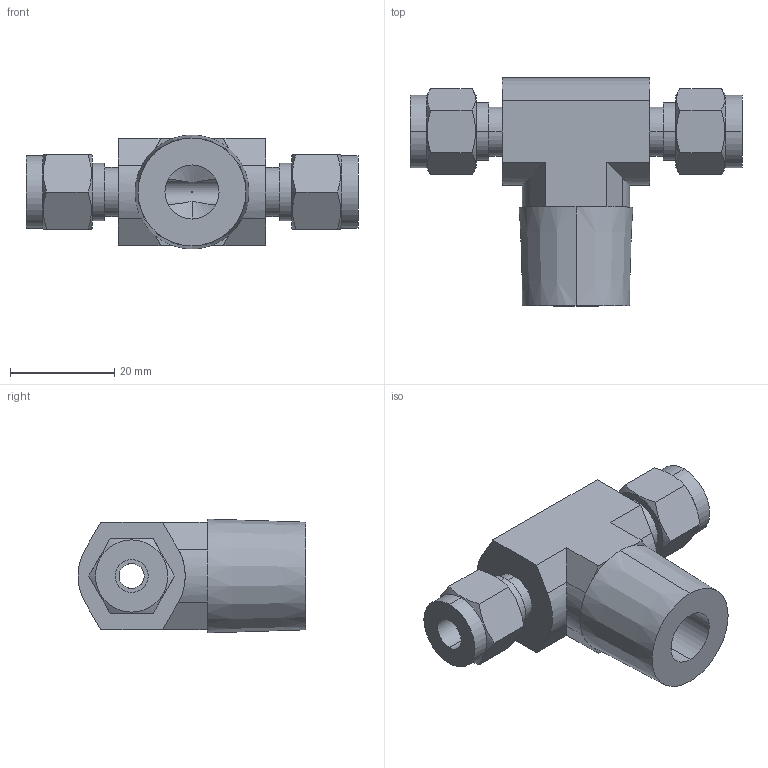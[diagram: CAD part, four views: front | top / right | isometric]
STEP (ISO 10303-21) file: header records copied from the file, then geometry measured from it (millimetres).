
FILE_DESCRIPTION (( 'STEP AP203' ), '1' );
FILE_NAME ('DTN 04-08 SS.STEP', '2009-09-08T10:09:23', ( 'Your User Name' ), ( 'Your Company Name' ), 'SwSTEP 2.0', 'SolidWorks 2008', '' );
FILE_SCHEMA (( 'CONFIG_CONTROL_DESIGN' ));
Length unit declared in the file: millimetre
Products named in the file (1): DTN 04-08 SS
Bounding box: 63.8 x 43.8 x 21.88 mm (x, y, z)
Volume: 19660.8 mm3; surface area: 8338.3 mm2
Topology: 1 solids, 1 shells, 84 faces, 204 edges, 128 vertices
Faces by surface type: plane 43, cylinder 26, cone 15
Entity records: 2847 total; most frequent: CARTESIAN_POINT 831, ORIENTED_EDGE 404, DIRECTION 395, EDGE_CURVE 202, AXIS2_PLACEMENT_3D 149, VERTEX_POINT 128, VECTOR 97, LINE 97
